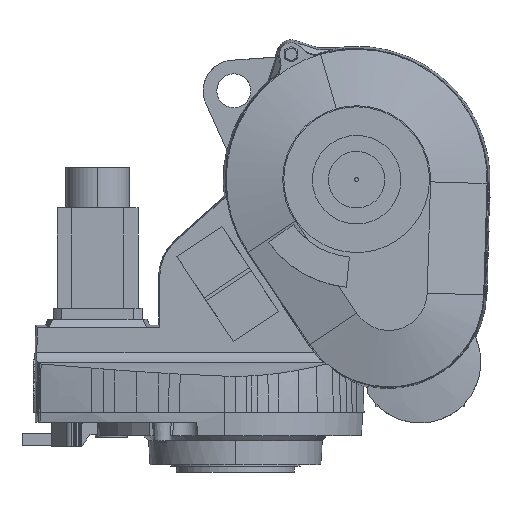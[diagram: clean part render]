
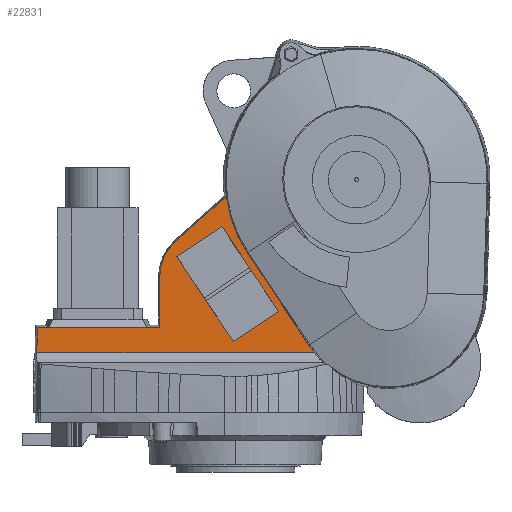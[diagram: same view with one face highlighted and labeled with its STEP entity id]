
A CAD part, front view. The second image highlights one B-rep face of the part: STEP entity #22831.
In plain terms, the highlighted planar face has unit normal (0, -1, 0).
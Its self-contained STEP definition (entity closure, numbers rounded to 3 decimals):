
#33 = ORIENTED_EDGE ( 'NONE', *, *, #7238, .T. ) ;
#404 = ORIENTED_EDGE ( 'NONE', *, *, #8522, .T. ) ;
#745 = CARTESIAN_POINT ( 'NONE',  ( 159.197, -95., 303.356 ) ) ;
#926 = ORIENTED_EDGE ( 'NONE', *, *, #4197, .T. ) ;
#1185 = VECTOR ( 'NONE', #4069, 1000. ) ;
#1307 = ORIENTED_EDGE ( 'NONE', *, *, #5585, .T. ) ;
#1522 = CARTESIAN_POINT ( 'NONE',  ( -72.403, -95., 391.018 ) ) ;
#1597 = DIRECTION ( 'NONE',  ( -0.555, 0., 0.832 ) ) ;
#1639 = VECTOR ( 'NONE', #5080, 1000. ) ;
#1658 = CARTESIAN_POINT ( 'NONE',  ( 91.061, -95., 281.533 ) ) ;
#1738 = CARTESIAN_POINT ( 'NONE',  ( 91.061, -95., 281.533 ) ) ;
#1974 = EDGE_CURVE ( 'NONE', #5410, #6190, #5615, .T. ) ;
#2366 = CARTESIAN_POINT ( 'NONE',  ( -83.874, -95., 400.008 ) ) ;
#2718 = PLANE ( 'NONE',  #20455 ) ;
#3468 = CARTESIAN_POINT ( 'NONE',  ( -16.668, -95., 428.201 ) ) ;
#3548 = VERTEX_POINT ( 'NONE', #12553 ) ;
#3907 = DIRECTION ( 'NONE',  ( 0., 0., -1. ) ) ;
#3915 = CARTESIAN_POINT ( 'NONE',  ( -93.55, -95., 303.356 ) ) ;
#3990 = CARTESIAN_POINT ( 'NONE',  ( -245.021, -95., 303.356 ) ) ;
#4069 = DIRECTION ( 'NONE',  ( 0.026, 0., 1. ) ) ;
#4168 = LINE ( 'NONE', #1738, #8051 ) ;
#4197 = EDGE_CURVE ( 'NONE', #4401, #4376, #6200, .T. ) ;
#4346 = CARTESIAN_POINT ( 'NONE',  ( -90.595, -95., 387.427 ) ) ;
#4373 = CARTESIAN_POINT ( 'NONE',  ( 53.259, -95., 323.386 ) ) ;
#4376 = VERTEX_POINT ( 'NONE', #4373 ) ;
#4401 = VERTEX_POINT ( 'NONE', #3468 ) ;
#4462 = VECTOR ( 'NONE', #10451, 1000. ) ;
#4604 = VERTEX_POINT ( 'NONE', #1658 ) ;
#4653 = VERTEX_POINT ( 'NONE', #1522 ) ;
#4677 = DIRECTION ( 'NONE',  ( 0., 0., -1. ) ) ;
#4879 = VERTEX_POINT ( 'NONE', #22864 ) ;
#4922 = VERTEX_POINT ( 'NONE', #21290 ) ;
#5075 = VERTEX_POINT ( 'NONE', #8745 ) ;
#5080 = DIRECTION ( 'NONE',  ( 0.555, 0., -0.832 ) ) ;
#5119 = DIRECTION ( 'NONE',  ( -0.555, 0., 0.832 ) ) ;
#5179 = CARTESIAN_POINT ( 'NONE',  ( -2.476, -95., 286.203 ) ) ;
#5320 = VERTEX_POINT ( 'NONE', #24383 ) ;
#5410 = VERTEX_POINT ( 'NONE', #23551 ) ;
#5434 = CARTESIAN_POINT ( 'NONE',  ( -16.668, -95., 428.201 ) ) ;
#5585 = EDGE_CURVE ( 'NONE', #4376, #3548, #12683, .T. ) ;
#5615 = LINE ( 'NONE', #3915, #5810 ) ;
#5671 = DIRECTION ( 'NONE',  ( 1., 0., 0. ) ) ;
#5752 = CARTESIAN_POINT ( 'NONE',  ( 159.197, -95., 303.356 ) ) ;
#5810 = VECTOR ( 'NONE', #3907, 1000. ) ;
#6190 = VERTEX_POINT ( 'NONE', #15818 ) ;
#6200 = LINE ( 'NONE', #5434, #1639 ) ;
#6265 = CARTESIAN_POINT ( 'NONE',  ( -93.55, -95., 373.531 ) ) ;
#6684 = DIRECTION ( 'NONE',  ( 1., 0., 0. ) ) ;
#6688 = CARTESIAN_POINT ( 'NONE',  ( 159.197, -95., 272.431 ) ) ;
#7238 = EDGE_CURVE ( 'NONE', #3548, #4653, #8201, .T. ) ;
#7840 = FACE_BOUND ( 'NONE', #22151, .T. ) ;
#8051 = VECTOR ( 'NONE', #1597, 1000. ) ;
#8148 = LINE ( 'NONE', #5752, #17836 ) ;
#8201 = LINE ( 'NONE', #5179, #17878 ) ;
#8431 = DIRECTION ( 'NONE',  ( 0., -1., 0. ) ) ;
#8522 = EDGE_CURVE ( 'NONE', #4653, #4401, #11134, .T. ) ;
#8745 = CARTESIAN_POINT ( 'NONE',  ( -74.055, -95., 410.121 ) ) ;
#9232 = CARTESIAN_POINT ( 'NONE',  ( -11.473, -95., 465.9 ) ) ;
#9556 = EDGE_CURVE ( 'NONE', #14140, #4879, #19668, .T. ) ;
#9638 = EDGE_CURVE ( 'NONE', #14107, #6190, #8148, .T. ) ;
#9740 = EDGE_CURVE ( 'NONE', #14140, #14107, #21153, .T. ) ;
#10011 = CARTESIAN_POINT ( 'NONE',  ( -245.832, -95., 272.431 ) ) ;
#10451 = DIRECTION ( 'NONE',  ( -0.747, 0., -0.665 ) ) ;
#10662 = CARTESIAN_POINT ( 'NONE',  ( -11.473, -95., 465.9 ) ) ;
#10737 = CARTESIAN_POINT ( 'NONE',  ( -245.021, -95., 303.356 ) ) ;
#10749 = CARTESIAN_POINT ( 'NONE',  ( -10.417, -95., 457.621 ) ) ;
#10840 = CARTESIAN_POINT ( 'NONE',  ( -8.883, -95., 449.403 ) ) ;
#10994 = CARTESIAN_POINT ( 'NONE',  ( -6.876, -95., 441.278 ) ) ;
#11082 = CARTESIAN_POINT ( 'NONE',  ( -4.401, -95., 433.276 ) ) ;
#11134 = LINE ( 'NONE', #19256, #22048 ) ;
#11160 = CARTESIAN_POINT ( 'NONE',  ( -1.469, -95., 425.428 ) ) ;
#11350 = EDGE_CURVE ( 'NONE', #4879, #4604, #19526, .T. ) ;
#11925 = CARTESIAN_POINT ( 'NONE',  ( -79.293, -95., 405.431 ) ) ;
#12185 = EDGE_CURVE ( 'NONE', #4604, #4922, #4168, .T. ) ;
#12553 = CARTESIAN_POINT ( 'NONE',  ( -2.476, -95., 286.203 ) ) ;
#12638 = CARTESIAN_POINT ( 'NONE',  ( 1.911, -95., 417.764 ) ) ;
#12683 = LINE ( 'NONE', #22546, #17930 ) ;
#12721 = CARTESIAN_POINT ( 'NONE',  ( 5.724, -95., 410.313 ) ) ;
#12877 = FACE_OUTER_BOUND ( 'NONE', #22061, .T. ) ;
#12974 = EDGE_CURVE ( 'NONE', #4922, #5320, #17112, .T. ) ;
#14107 = VERTEX_POINT ( 'NONE', #10737 ) ;
#14140 = VERTEX_POINT ( 'NONE', #10011 ) ;
#14687 = CARTESIAN_POINT ( 'NONE',  ( 9.956, -95., 403.103 ) ) ;
#15562 = EDGE_CURVE ( 'NONE', #5320, #5075, #24263, .T. ) ;
#15818 = CARTESIAN_POINT ( 'NONE',  ( -93.55, -95., 303.356 ) ) ;
#15819 = CARTESIAN_POINT ( 'NONE',  ( -87.675, -95., 393.961 ) ) ;
#16683 = B_SPLINE_CURVE_WITH_KNOTS ( 'NONE', 7,
 ( #17739, #11925, #2366, #15819, #4346, #17830, #6265, #19797 ),
 .UNSPECIFIED., .F., .F.,
 ( 8, 8 ),
 ( 0., 0.049 ),
 .UNSPECIFIED. ) ;
#16899 = EDGE_CURVE ( 'NONE', #5075, #5410, #16683, .T. ) ;
#17010 = CARTESIAN_POINT ( 'NONE',  ( 14.588, -95., 396.16 ) ) ;
#17112 = B_SPLINE_CURVE_WITH_KNOTS ( 'NONE', 9,
 ( #17010, #14687, #12721, #12638, #11160, #11082, #10994, #10840, #10749, #9232 ),
 .UNSPECIFIED., .F., .F.,
 ( 10, 10 ),
 ( 0., 0.075 ),
 .UNSPECIFIED. ) ;
#17739 = CARTESIAN_POINT ( 'NONE',  ( -74.055, -95., 410.121 ) ) ;
#17830 = CARTESIAN_POINT ( 'NONE',  ( -92.565, -95., 380.562 ) ) ;
#17836 = VECTOR ( 'NONE', #5671, 1000. ) ;
#17878 = VECTOR ( 'NONE', #5119, 1000. ) ;
#17930 = VECTOR ( 'NONE', #21989, 1000. ) ;
#19256 = CARTESIAN_POINT ( 'NONE',  ( -72.403, -95., 391.018 ) ) ;
#19264 = DIRECTION ( 'NONE',  ( 0.832, 0., 0.555 ) ) ;
#19526 = B_SPLINE_CURVE_WITH_KNOTS ( 'NONE', 5,
 ( #22464, #22494, #22301, #22248, #22219, #22163 ),
 .UNSPECIFIED., .F., .F.,
 ( 6, 6 ),
 ( 0., 0.011 ),
 .UNSPECIFIED. ) ;
#19668 = LINE ( 'NONE', #6688, #20274 ) ;
#19797 = CARTESIAN_POINT ( 'NONE',  ( -93.55, -95., 366.5 ) ) ;
#20274 = VECTOR ( 'NONE', #6684, 1000. ) ;
#20455 = AXIS2_PLACEMENT_3D ( 'NONE', #745, #8431, #4677 ) ;
#21153 = LINE ( 'NONE', #3990, #1185 ) ;
#21290 = CARTESIAN_POINT ( 'NONE',  ( 14.588, -95., 396.16 ) ) ;
#21989 = DIRECTION ( 'NONE',  ( -0.832, 0., -0.555 ) ) ;
#22048 = VECTOR ( 'NONE', #19264, 1000. ) ;
#22061 = EDGE_LOOP ( 'NONE', ( #22858, #23099, #23280, #23488, #23670, #23870, #23970, #24160, #24568 ) ) ;
#22151 = EDGE_LOOP ( 'NONE', ( #33, #404, #926, #1307 ) ) ;
#22163 = CARTESIAN_POINT ( 'NONE',  ( 91.061, -95., 281.533 ) ) ;
#22219 = CARTESIAN_POINT ( 'NONE',  ( 92.317, -95., 279.65 ) ) ;
#22248 = CARTESIAN_POINT ( 'NONE',  ( 93.618, -95., 277.797 ) ) ;
#22301 = CARTESIAN_POINT ( 'NONE',  ( 94.963, -95., 275.975 ) ) ;
#22464 = CARTESIAN_POINT ( 'NONE',  ( 97.78, -95., 272.431 ) ) ;
#22494 = CARTESIAN_POINT ( 'NONE',  ( 96.351, -95., 274.186 ) ) ;
#22546 = CARTESIAN_POINT ( 'NONE',  ( 53.259, -95., 323.386 ) ) ;
#22831 = ADVANCED_FACE ( 'NONE', ( #12877, #7840 ), #2718, .T. ) ;
#22858 = ORIENTED_EDGE ( 'NONE', *, *, #15562, .T. ) ;
#22864 = CARTESIAN_POINT ( 'NONE',  ( 97.78, -95., 272.431 ) ) ;
#23099 = ORIENTED_EDGE ( 'NONE', *, *, #16899, .T. ) ;
#23280 = ORIENTED_EDGE ( 'NONE', *, *, #1974, .T. ) ;
#23488 = ORIENTED_EDGE ( 'NONE', *, *, #9638, .F. ) ;
#23551 = CARTESIAN_POINT ( 'NONE',  ( -93.55, -95., 366.5 ) ) ;
#23670 = ORIENTED_EDGE ( 'NONE', *, *, #9740, .F. ) ;
#23870 = ORIENTED_EDGE ( 'NONE', *, *, #9556, .T. ) ;
#23970 = ORIENTED_EDGE ( 'NONE', *, *, #11350, .T. ) ;
#24160 = ORIENTED_EDGE ( 'NONE', *, *, #12185, .T. ) ;
#24263 = LINE ( 'NONE', #10662, #4462 ) ;
#24383 = CARTESIAN_POINT ( 'NONE',  ( -11.473, -95., 465.9 ) ) ;
#24568 = ORIENTED_EDGE ( 'NONE', *, *, #12974, .T. ) ;
